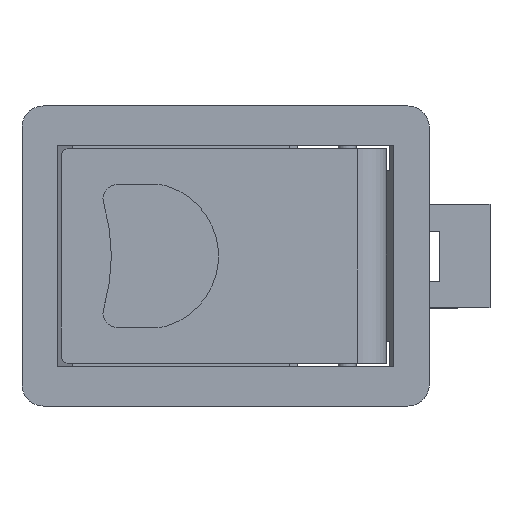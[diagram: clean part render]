
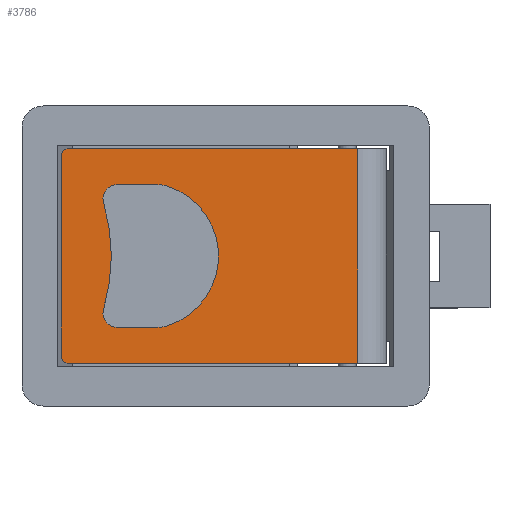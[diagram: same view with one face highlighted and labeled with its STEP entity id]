
A CAD part, top view. The second image highlights one B-rep face of the part: STEP entity #3786.
In plain terms, the highlighted planar face has unit normal (0, 0, 1).
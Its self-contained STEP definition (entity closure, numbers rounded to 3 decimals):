
#171=FACE_BOUND('',#690,.T.);
#225=CIRCLE('',#4010,1.);
#228=CIRCLE('',#4016,1.);
#232=CIRCLE('',#4023,2.);
#234=CIRCLE('',#4026,26.);
#236=CIRCLE('',#4029,2.);
#238=CIRCLE('',#4033,5.);
#240=CIRCLE('',#4036,10.25);
#242=CIRCLE('',#4039,5.);
#445=FACE_OUTER_BOUND('',#689,.T.);
#689=EDGE_LOOP('',(#3100,#3101,#3102,#3103,#3104,#3105));
#690=EDGE_LOOP('',(#3106,#3107,#3108,#3109,#3110,#3111,#3112,#3113));
#1008=LINE('',#9160,#1381);
#1016=LINE('',#9194,#1389);
#1022=LINE('',#9218,#1395);
#1031=LINE('',#9251,#1404);
#1058=LINE('',#9310,#1431);
#1063=LINE('',#9323,#1436);
#1381=VECTOR('',#4679,28.);
#1389=VECTOR('',#4699,5.518);
#1395=VECTOR('',#4725,5.518);
#1404=VECTOR('',#4758,30.);
#1431=VECTOR('',#4813,40.5);
#1436=VECTOR('',#4830,40.5);
#1714=VERTEX_POINT('',#9145);
#1715=VERTEX_POINT('',#9147);
#1719=VERTEX_POINT('',#9159);
#1722=VERTEX_POINT('',#9167);
#1728=VERTEX_POINT('',#9191);
#1729=VERTEX_POINT('',#9193);
#1731=VERTEX_POINT('',#9199);
#1733=VERTEX_POINT('',#9205);
#1735=VERTEX_POINT('',#9211);
#1737=VERTEX_POINT('',#9217);
#1739=VERTEX_POINT('',#9223);
#1741=VERTEX_POINT('',#9229);
#1742=VERTEX_POINT('',#9236);
#1749=VERTEX_POINT('',#9249);
#2158=EDGE_CURVE('',#1714,#1715,#225,.T.);
#2164=EDGE_CURVE('',#1715,#1719,#1008,.T.);
#2168=EDGE_CURVE('',#1719,#1722,#228,.T.);
#2176=EDGE_CURVE('',#1729,#1728,#1016,.T.);
#2179=EDGE_CURVE('',#1731,#1729,#232,.T.);
#2182=EDGE_CURVE('',#1733,#1731,#234,.T.);
#2185=EDGE_CURVE('',#1735,#1733,#236,.T.);
#2188=EDGE_CURVE('',#1737,#1735,#1022,.T.);
#2191=EDGE_CURVE('',#1739,#1737,#238,.T.);
#2194=EDGE_CURVE('',#1741,#1739,#240,.T.);
#2197=EDGE_CURVE('',#1728,#1741,#242,.T.);
#2205=EDGE_CURVE('',#1749,#1742,#1031,.T.);
#2235=EDGE_CURVE('',#1742,#1714,#1058,.T.);
#2242=EDGE_CURVE('',#1722,#1749,#1063,.T.);
#3100=ORIENTED_EDGE('',*,*,#2158,.F.);
#3101=ORIENTED_EDGE('',*,*,#2235,.F.);
#3102=ORIENTED_EDGE('',*,*,#2205,.F.);
#3103=ORIENTED_EDGE('',*,*,#2242,.F.);
#3104=ORIENTED_EDGE('',*,*,#2168,.F.);
#3105=ORIENTED_EDGE('',*,*,#2164,.F.);
#3106=ORIENTED_EDGE('',*,*,#2188,.T.);
#3107=ORIENTED_EDGE('',*,*,#2185,.T.);
#3108=ORIENTED_EDGE('',*,*,#2182,.T.);
#3109=ORIENTED_EDGE('',*,*,#2179,.T.);
#3110=ORIENTED_EDGE('',*,*,#2176,.T.);
#3111=ORIENTED_EDGE('',*,*,#2197,.T.);
#3112=ORIENTED_EDGE('',*,*,#2194,.T.);
#3113=ORIENTED_EDGE('',*,*,#2191,.T.);
#3607=PLANE('',#4067);
#3786=ADVANCED_FACE('',(#445,#171),#3607,.T.);
#4010=AXIS2_PLACEMENT_3D('',#9148,#4666,#4667);
#4016=AXIS2_PLACEMENT_3D('',#9168,#4685,#4686);
#4023=AXIS2_PLACEMENT_3D('',#9200,#4705,#4706);
#4026=AXIS2_PLACEMENT_3D('',#9206,#4712,#4713);
#4029=AXIS2_PLACEMENT_3D('',#9212,#4719,#4720);
#4033=AXIS2_PLACEMENT_3D('',#9224,#4731,#4732);
#4036=AXIS2_PLACEMENT_3D('',#9230,#4738,#4739);
#4039=AXIS2_PLACEMENT_3D('',#9234,#4745,#4746);
#4067=AXIS2_PLACEMENT_3D('',#9333,#4842,#4843);
#4666=DIRECTION('center_axis',(0.,0.,-1.));
#4667=DIRECTION('ref_axis',(-0.707,-0.707,0.));
#4679=DIRECTION('',(0.,1.,0.));
#4685=DIRECTION('center_axis',(0.,0.,-1.));
#4686=DIRECTION('ref_axis',(-0.707,0.707,0.));
#4699=DIRECTION('',(1.,0.,0.));
#4705=DIRECTION('center_axis',(0.,0.,-1.));
#4706=DIRECTION('ref_axis',(0.,-1.,0.));
#4712=DIRECTION('center_axis',(0.,0.,1.));
#4713=DIRECTION('ref_axis',(0.958,-0.286,0.));
#4719=DIRECTION('center_axis',(0.,0.,-1.));
#4720=DIRECTION('ref_axis',(0.958,-0.286,0.));
#4725=DIRECTION('',(-1.,0.,0.));
#4731=DIRECTION('center_axis',(0.,0.,-1.));
#4732=DIRECTION('ref_axis',(0.,1.,0.));
#4738=DIRECTION('center_axis',(0.,0.,-1.));
#4739=DIRECTION('ref_axis',(-0.305,0.952,0.));
#4745=DIRECTION('center_axis',(0.,0.,-1.));
#4746=DIRECTION('ref_axis',(-0.305,-0.952,0.));
#4758=DIRECTION('',(0.,-1.,0.));
#4813=DIRECTION('',(-1.,0.,0.));
#4830=DIRECTION('',(1.,0.,0.));
#4842=DIRECTION('center_axis',(0.,0.,1.));
#4843=DIRECTION('ref_axis',(1.,0.,0.));
#9145=CARTESIAN_POINT('',(-22.,-15.,3.5));
#9147=CARTESIAN_POINT('',(-23.,-14.,3.5));
#9148=CARTESIAN_POINT('Origin',(-22.,-14.,3.5));
#9159=CARTESIAN_POINT('',(-23.,14.,3.5));
#9160=CARTESIAN_POINT('',(-23.,0.,3.5));
#9167=CARTESIAN_POINT('',(-22.,15.,3.5));
#9168=CARTESIAN_POINT('Origin',(-22.,14.,3.5));
#9191=CARTESIAN_POINT('',(-9.649,10.,3.5));
#9193=CARTESIAN_POINT('',(-15.167,10.,3.5));
#9194=CARTESIAN_POINT('',(-19.084,10.,3.5));
#9199=CARTESIAN_POINT('',(-17.084,7.429,3.5));
#9200=CARTESIAN_POINT('Origin',(-15.167,8.,3.5));
#9205=CARTESIAN_POINT('',(-17.084,-7.429,3.5));
#9206=CARTESIAN_POINT('Origin',(-42.,0.,3.5));
#9211=CARTESIAN_POINT('',(-15.167,-10.,3.5));
#9212=CARTESIAN_POINT('Origin',(-15.167,-8.,3.5));
#9217=CARTESIAN_POINT('',(-9.649,-10.,3.5));
#9218=CARTESIAN_POINT('',(-16.325,-10.,3.5));
#9223=CARTESIAN_POINT('',(-8.125,-9.762,3.5));
#9224=CARTESIAN_POINT('Origin',(-9.649,-5.,3.5));
#9229=CARTESIAN_POINT('',(-8.125,9.762,3.5));
#9230=CARTESIAN_POINT('Origin',(-11.25,0.,3.5));
#9234=CARTESIAN_POINT('Origin',(-9.649,5.,3.5));
#9236=CARTESIAN_POINT('',(18.5,-15.,3.5));
#9249=CARTESIAN_POINT('',(18.5,15.,3.5));
#9251=CARTESIAN_POINT('',(18.5,0.,3.5));
#9310=CARTESIAN_POINT('',(-23.,-15.,3.5));
#9323=CARTESIAN_POINT('',(-23.,15.,3.5));
#9333=CARTESIAN_POINT('Origin',(-23.,0.,3.5));
